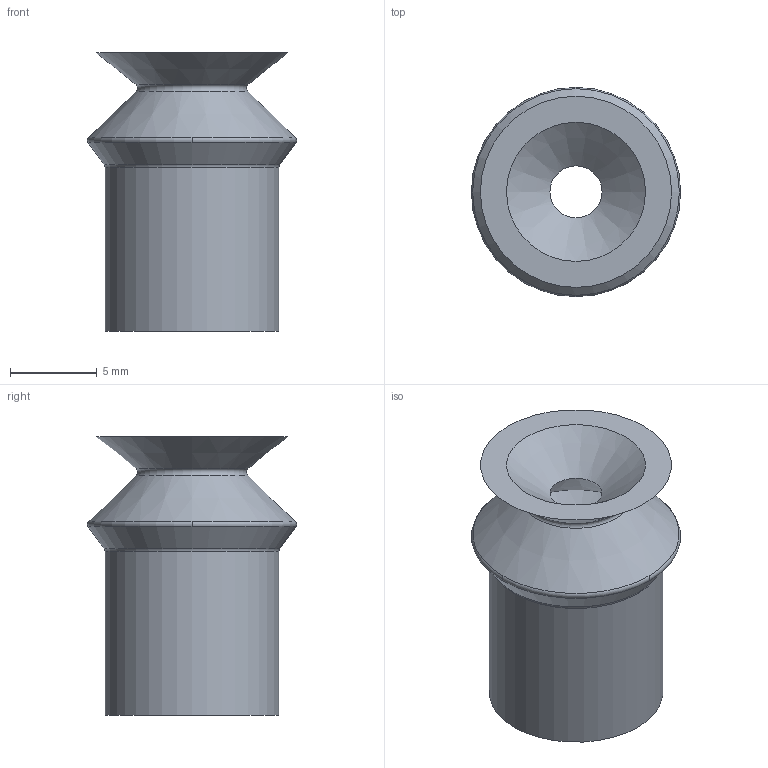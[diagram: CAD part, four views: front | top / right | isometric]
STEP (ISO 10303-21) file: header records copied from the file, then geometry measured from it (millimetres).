
FILE_DESCRIPTION (( 'STEP AP214' ), '1' );
FILE_NAME ('432.STEP', '2024-06-14T14:55:16', ( '' ), ( '' ), 'SwSTEP 2.0', 'SolidWorks 2022', '' );
FILE_SCHEMA (( 'AUTOMOTIVE_DESIGN' ));
Length unit declared in the file: millimetre
Products named in the file (1): 432
Bounding box: 12.04 x 12.04 x 16 mm (x, y, z)
Volume: 870.6 mm3; surface area: 999.9 mm2
Topology: 1 solids, 1 shells, 17 faces, 35 edges, 21 vertices
Faces by surface type: cone 6, torus 6, plane 3, cylinder 2
Full cylindrical faces by diameter (mm): 4 x1, 10 x1
Entity records: 436 total; most frequent: DIRECTION 84, CARTESIAN_POINT 62, ORIENTED_EDGE 48, AXIS2_PLACEMENT_3D 42, EDGE_LOOP 30, EDGE_CURVE 24, CIRCLE 24, FACE_OUTER_BOUND 21
